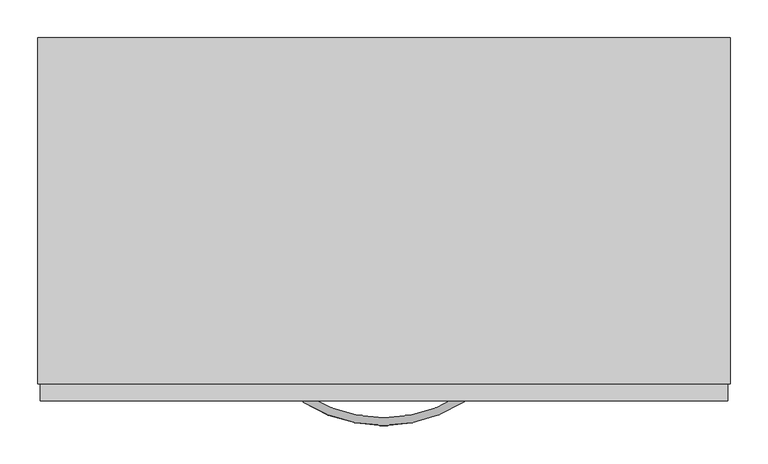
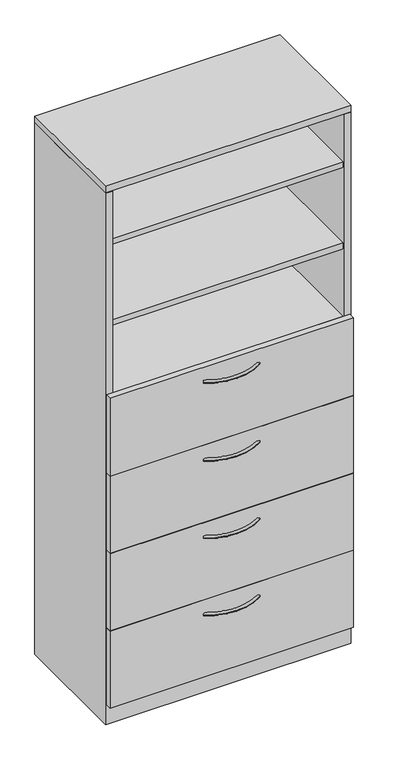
"""IFC4 building model written with IfcOpenShell, lengths in millimetres: furniture geometry, Steelcase - Universal Storage - Cabinet - Combination - Proud Steel : 83 1/2H - Open Cabinet/4 Drawers - 18 7/8D x 36W."""

from ifc_helpers import new_model, si_unit, point, frame, origin, place, context, project, spatial, polyline, circle_curve, ellipse_curve, trimmed, outline, extrude, faceted_brep, source, transform, mapped, element, save
from ifc_brep_helpers import plane_surface, revolved_surface, advanced_brep


def furniture_d5eebd49(model_context):
    return source(origin(), model_context, "Body", "SolidModel", [
        extrude(outline(polyline([(889.0000242, -25.4000008), (889.0000242, -454.0250121), (25.4000008, -454.0250121), (25.4000008, -25.4000008), (889.0000242, -25.4000008)])), frame((0.0, 0.0, 1273.1750484), z_axis=(0.0, 0.0, 1.0), x_axis=(1.0, 0.0, 0.0)), (0.0, 0.0, 1.0), 22.2249516),
        extrude(outline(polyline([(889.0000242, -25.4000008), (889.0000242, -454.0250121), (25.4000008, -454.0250121), (25.4000008, -25.4000008), (889.0000242, -25.4000008)])), frame((0.0, 0.0, 1562.7350484), z_axis=(0.0, 0.0, 1.0), x_axis=(1.0, 0.0, 0.0)), (0.0, 0.0, 1.0), 22.2249516),
        extrude(outline(polyline([(889.0000242, -25.4000008), (889.0000242, -454.0250121), (25.4000008, -454.0250121), (25.4000008, -25.4000008), (889.0000242, -25.4000008)])), frame((0.0, 0.0, 1882.7750484), z_axis=(0.0, 0.0, 1.0), x_axis=(1.0, 0.0, 0.0)), (0.0, 0.0, 1.0), 22.2249516),
        advanced_brep(
        [(350.6245932, -481.5705994, 1240.6312742), (356.0977519, -473.0108019, 1240.6312742), (562.9315136, -481.1337636, 1240.6312742), (557.4231767, -472.5965612, 1240.6312742)],
        [
            (0, 1, circle_curve(frame((353.3611726, -477.2907007, 1240.6312742), z_axis=(-0.8424997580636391, 0.5386967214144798, 0.0), x_axis=(0.5386967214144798, 0.8424997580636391, 0.0)), 5.08)),
            (1, 0, circle_curve(frame((353.3611726, -477.2907007, 1240.6312742), z_axis=(-0.8424997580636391, 0.5386967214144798, 0.0), x_axis=(0.5386967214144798, 0.8424997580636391, 0.0)), 5.08)),
            (2, 3, circle_curve(frame((560.1773452, -476.8651624, 1240.6312742), z_axis=(0.8402758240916, 0.5421591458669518, 0.0), x_axis=(-0.5421591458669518, 0.8402758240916, 0.0)), 5.08)),
            (3, 2, circle_curve(frame((560.1773452, -476.8651624, 1240.6312742), z_axis=(0.8402758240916, 0.5421591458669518, 0.0), x_axis=(-0.5421591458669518, 0.8402758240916, 0.0)), 5.08)),
            (3, 1, circle_curve(frame((456.4380004, -316.0827352, 1240.6312742), z_axis=(0.0, 0.0, -1.0), x_axis=(-0.5386967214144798, -0.8424997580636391, 0.0)), 186.2648211)),
            (0, 2, circle_curve(frame((456.4380004, -316.0827352, 1240.6312742), z_axis=(0.0, 0.0, 1.0), x_axis=(-0.5386967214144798, -0.8424997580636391, 0.0)), 196.4248211)),
        ],
        [
            plane_surface(frame((353.7794521, -476.6365286, 1241.4250242), z_axis=(-0.8424997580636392, 0.5386967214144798, 0.0), x_axis=(0.0, 0.0, 1.0))),
            plane_surface(frame((559.7563772, -476.2127171, 1241.4250242), z_axis=(0.8402758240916, 0.5421591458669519, 0.0), x_axis=(0.0, 0.0, 1.0))),
            revolved_surface(trimmed(ellipse_curve(frame((353.3611726, -477.2907007, 1240.6312742), z_axis=(-0.8424997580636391, 0.5386967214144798, 0.0), x_axis=(0.5386967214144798, 0.8424997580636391, 0.0)), 5.08, 5.08), [point((350.6245932, -481.5705994, 1240.6312742))], [point((356.0977519, -473.0108019, 1240.6312742))], True, "CARTESIAN"), (456.4380004, -316.0827352, 1241.4250242), (0.0, 0.0, 1.0)),
            revolved_surface(trimmed(ellipse_curve(frame((353.3611726, -477.2907007, 1240.6312742), z_axis=(-0.8424997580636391, 0.5386967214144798, 0.0), x_axis=(0.5386967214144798, 0.8424997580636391, 0.0)), 5.08, 5.08), [point((356.0977519, -473.0108019, 1240.6312742))], [point((350.6245932, -481.5705994, 1240.6312742))], True, "CARTESIAN"), (456.4380004, -316.0827352, 1241.4250242), (0.0, 0.0, 1.0)),
        ],
        [
            (0, [[1, 2]]),
            (1, [[3, 4]]),
            (2, [[5, -1, 6, -4]]),
            (3, [[-6, -2, -5, -3]]),
        ],
    ),
        advanced_brep(
        [(350.6245932, -481.5705994, 323.56425), (356.0977519, -473.0108019, 323.56425), (562.9315136, -481.1337636, 323.56425), (557.4231767, -472.5965612, 323.56425)],
        [
            (0, 1, circle_curve(frame((353.3611726, -477.2907007, 323.56425), z_axis=(-0.8424997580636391, 0.5386967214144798, 0.0), x_axis=(0.5386967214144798, 0.8424997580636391, 0.0)), 5.08)),
            (1, 0, circle_curve(frame((353.3611726, -477.2907007, 323.56425), z_axis=(-0.8424997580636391, 0.5386967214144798, 0.0), x_axis=(0.5386967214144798, 0.8424997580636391, 0.0)), 5.08)),
            (2, 3, circle_curve(frame((560.1773452, -476.8651624, 323.56425), z_axis=(0.8402758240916, 0.5421591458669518, 0.0), x_axis=(-0.5421591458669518, 0.8402758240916, 0.0)), 5.08)),
            (3, 2, circle_curve(frame((560.1773452, -476.8651624, 323.56425), z_axis=(0.8402758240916, 0.5421591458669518, 0.0), x_axis=(-0.5421591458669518, 0.8402758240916, 0.0)), 5.08)),
            (3, 1, circle_curve(frame((456.4380004, -316.0827352, 323.56425), z_axis=(0.0, 0.0, -1.0), x_axis=(-0.5386967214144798, -0.8424997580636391, 0.0)), 186.2648211)),
            (0, 2, circle_curve(frame((456.4380004, -316.0827352, 323.56425), z_axis=(0.0, 0.0, 1.0), x_axis=(-0.5386967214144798, -0.8424997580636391, 0.0)), 196.4248211)),
        ],
        [
            plane_surface(frame((353.7794521, -476.6365286, 324.358), z_axis=(-0.8424997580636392, 0.5386967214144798, 0.0), x_axis=(0.0, 0.0, 1.0))),
            plane_surface(frame((559.7563772, -476.2127171, 324.358), z_axis=(0.8402758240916, 0.5421591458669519, 0.0), x_axis=(0.0, 0.0, 1.0))),
            revolved_surface(trimmed(ellipse_curve(frame((353.3611726, -477.2907007, 323.56425), z_axis=(-0.8424997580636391, 0.5386967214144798, 0.0), x_axis=(0.5386967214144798, 0.8424997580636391, 0.0)), 5.08, 5.08), [point((350.6245932, -481.5705994, 323.56425))], [point((356.0977519, -473.0108019, 323.56425))], True, "CARTESIAN"), (456.4380004, -316.0827352, 324.358), (0.0, 0.0, 1.0)),
            revolved_surface(trimmed(ellipse_curve(frame((353.3611726, -477.2907007, 323.56425), z_axis=(-0.8424997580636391, 0.5386967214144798, 0.0), x_axis=(0.5386967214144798, 0.8424997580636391, 0.0)), 5.08, 5.08), [point((356.0977519, -473.0108019, 323.56425))], [point((350.6245932, -481.5705994, 323.56425))], True, "CARTESIAN"), (456.4380004, -316.0827352, 324.358), (0.0, 0.0, 1.0)),
        ],
        [
            (0, [[1, 2]]),
            (1, [[3, 4]]),
            (2, [[5, -1, 6, -4]]),
            (3, [[-6, -2, -5, -3]]),
        ],
    ),
        advanced_brep(
        [(350.6245932, -481.5705994, 627.85625), (356.0977519, -473.0108019, 627.85625), (562.9315136, -481.1337636, 627.85625), (557.4231767, -472.5965612, 627.85625)],
        [
            (0, 1, circle_curve(frame((353.3611726, -477.2907007, 627.85625), z_axis=(-0.8424997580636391, 0.5386967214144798, 0.0), x_axis=(0.5386967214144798, 0.8424997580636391, 0.0)), 5.08)),
            (1, 0, circle_curve(frame((353.3611726, -477.2907007, 627.85625), z_axis=(-0.8424997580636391, 0.5386967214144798, 0.0), x_axis=(0.5386967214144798, 0.8424997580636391, 0.0)), 5.08)),
            (2, 3, circle_curve(frame((560.1773452, -476.8651624, 627.85625), z_axis=(0.8402758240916, 0.5421591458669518, 0.0), x_axis=(-0.5421591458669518, 0.8402758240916, 0.0)), 5.08)),
            (3, 2, circle_curve(frame((560.1773452, -476.8651624, 627.85625), z_axis=(0.8402758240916, 0.5421591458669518, 0.0), x_axis=(-0.5421591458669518, 0.8402758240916, 0.0)), 5.08)),
            (3, 1, circle_curve(frame((456.4380004, -316.0827352, 627.85625), z_axis=(0.0, 0.0, -1.0), x_axis=(-0.5386967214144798, -0.8424997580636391, 0.0)), 186.2648211)),
            (0, 2, circle_curve(frame((456.4380004, -316.0827352, 627.85625), z_axis=(0.0, 0.0, 1.0), x_axis=(-0.5386967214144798, -0.8424997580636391, 0.0)), 196.4248211)),
        ],
        [
            plane_surface(frame((353.7794521, -476.6365286, 628.65), z_axis=(-0.8424997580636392, 0.5386967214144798, 0.0), x_axis=(0.0, 0.0, 1.0))),
            plane_surface(frame((559.7563772, -476.2127171, 628.65), z_axis=(0.8402758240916, 0.5421591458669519, 0.0), x_axis=(0.0, 0.0, 1.0))),
            revolved_surface(trimmed(ellipse_curve(frame((353.3611726, -477.2907007, 627.85625), z_axis=(-0.8424997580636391, 0.5386967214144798, 0.0), x_axis=(0.5386967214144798, 0.8424997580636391, 0.0)), 5.08, 5.08), [point((350.6245932, -481.5705994, 627.85625))], [point((356.0977519, -473.0108019, 627.85625))], True, "CARTESIAN"), (456.4380004, -316.0827352, 628.65), (0.0, 0.0, 1.0)),
            revolved_surface(trimmed(ellipse_curve(frame((353.3611726, -477.2907007, 627.85625), z_axis=(-0.8424997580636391, 0.5386967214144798, 0.0), x_axis=(0.5386967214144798, 0.8424997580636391, 0.0)), 5.08, 5.08), [point((356.0977519, -473.0108019, 627.85625))], [point((350.6245932, -481.5705994, 627.85625))], True, "CARTESIAN"), (456.4380004, -316.0827352, 628.65), (0.0, 0.0, 1.0)),
        ],
        [
            (0, [[1, 2]]),
            (1, [[3, 4]]),
            (2, [[5, -1, 6, -4]]),
            (3, [[-6, -2, -5, -3]]),
        ],
    ),
        extrude(outline(polyline([(911.2225413, -479.552), (3.1725353, -479.552), (3.1725353, -457.3261219), (911.2225413, -457.3261219), (911.2225413, -479.552)])), frame((0.0, 0.0, 992.1240349), z_axis=(0.0, 0.0, 1.0), x_axis=(1.0, 0.0, 0.0)), (0.0, 0.0, 1.0), 306.4509893),
        extrude(outline(polyline([(911.2225413, -479.552), (3.1725353, -479.552), (3.1725353, -457.3261219), (911.2225413, -457.3261219), (911.2225413, -479.552)])), frame((0.0, 0.0, 687.3240349), z_axis=(0.0, 0.0, 1.0), x_axis=(1.0, 0.0, 0.0)), (0.0, 0.0, 1.0), 303.2759651),
        advanced_brep(
        [(350.6245932, -481.5705994, 932.65625), (356.0977519, -473.0108019, 932.65625), (562.9315136, -481.1337636, 932.65625), (557.4231767, -472.5965612, 932.65625)],
        [
            (0, 1, circle_curve(frame((353.3611726, -477.2907007, 932.65625), z_axis=(-0.8424997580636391, 0.5386967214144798, 0.0), x_axis=(0.5386967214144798, 0.8424997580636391, 0.0)), 5.08)),
            (1, 0, circle_curve(frame((353.3611726, -477.2907007, 932.65625), z_axis=(-0.8424997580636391, 0.5386967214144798, 0.0), x_axis=(0.5386967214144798, 0.8424997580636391, 0.0)), 5.08)),
            (2, 3, circle_curve(frame((560.1773452, -476.8651624, 932.65625), z_axis=(0.8402758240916, 0.5421591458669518, 0.0), x_axis=(-0.5421591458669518, 0.8402758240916, 0.0)), 5.08)),
            (3, 2, circle_curve(frame((560.1773452, -476.8651624, 932.65625), z_axis=(0.8402758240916, 0.5421591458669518, 0.0), x_axis=(-0.5421591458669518, 0.8402758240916, 0.0)), 5.08)),
            (3, 1, circle_curve(frame((456.4380004, -316.0827352, 932.65625), z_axis=(0.0, 0.0, -1.0), x_axis=(-0.5386967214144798, -0.8424997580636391, 0.0)), 186.2648211)),
            (0, 2, circle_curve(frame((456.4380004, -316.0827352, 932.65625), z_axis=(0.0, 0.0, 1.0), x_axis=(-0.5386967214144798, -0.8424997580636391, 0.0)), 196.4248211)),
        ],
        [
            plane_surface(frame((353.7794521, -476.6365286, 933.45), z_axis=(-0.8424997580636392, 0.5386967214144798, 0.0), x_axis=(0.0, 0.0, 1.0))),
            plane_surface(frame((559.7563772, -476.2127171, 933.45), z_axis=(0.8402758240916, 0.5421591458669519, 0.0), x_axis=(0.0, 0.0, 1.0))),
            revolved_surface(trimmed(ellipse_curve(frame((353.3611726, -477.2907007, 932.65625), z_axis=(-0.8424997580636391, 0.5386967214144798, 0.0), x_axis=(0.5386967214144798, 0.8424997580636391, 0.0)), 5.08, 5.08), [point((350.6245932, -481.5705994, 932.65625))], [point((356.0977519, -473.0108019, 932.65625))], True, "CARTESIAN"), (456.4380004, -316.0827352, 933.45), (0.0, 0.0, 1.0)),
            revolved_surface(trimmed(ellipse_curve(frame((353.3611726, -477.2907007, 932.65625), z_axis=(-0.8424997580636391, 0.5386967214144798, 0.0), x_axis=(0.5386967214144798, 0.8424997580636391, 0.0)), 5.08, 5.08), [point((356.0977519, -473.0108019, 932.65625))], [point((350.6245932, -481.5705994, 932.65625))], True, "CARTESIAN"), (456.4380004, -316.0827352, 933.45), (0.0, 0.0, 1.0)),
        ],
        [
            (0, [[1, 2]]),
            (1, [[3, 4]]),
            (2, [[5, -1, 6, -4]]),
            (3, [[-6, -2, -5, -3]]),
        ],
    ),
        faceted_brep([(25.4000008, -457.3261219, 76.2), (889.0000242, -457.3261219, 76.2), (889.0000242, -25.4000008, 76.2), (25.4000008, -25.4000008, 76.2), (914.4, 0.0, 0.0), (914.4, -457.3261219, 0.0), (0.0, -457.3261219, 0.0), (0.0, 0.0, 0.0), (0.0, 0.0, 2093.976), (914.4, 0.0, 2093.976), (0.0, -457.3261219, 2093.976), (914.4, -457.3261219, 2093.976), (889.0000242, -457.3261219, 2093.976), (25.4000008, -457.3261219, 2093.976), (889.0000242, -25.4000008, 2093.976), (25.4000008, -25.4000008, 2093.976)], [[[0, 1, 2, 3]], [[4, 5, 6, 7]], [[4, 7, 8, 9]], [[8, 7, 6, 10]], [[10, 6, 5, 11, 12, 1, 0, 13]], [[11, 5, 4, 9]], [[14, 12, 11, 9, 8, 10, 13, 15]], [[12, 14, 2, 1]], [[15, 13, 0, 3]], [[14, 15, 3, 2]]]),
        extrude(outline(polyline([(911.2225413, -479.552), (3.1725353, -479.552), (3.1725353, -457.3261219), (911.2225413, -457.3261219), (911.2225413, -479.552)])), frame((0.0, 0.0, 77.724), z_axis=(0.0, 0.0, 1.0), x_axis=(1.0, 0.0, 0.0)), (0.0, 0.0, 1.0), 303.276),
        extrude(outline(polyline([(911.2225413, -479.552), (3.1725353, -479.552), (3.1725353, -457.3261219), (911.2225413, -457.3261219), (911.2225413, -479.552)])), frame((0.0, 0.0, 382.524), z_axis=(0.0, 0.0, 1.0), x_axis=(1.0, 0.0, 0.0)), (0.0, 0.0, 1.0), 303.276),
        extrude(outline(polyline([(914.4, 0.0), (914.4, -457.3261219), (0.0, -457.3261219), (0.0, 0.0), (914.4, 0.0)])), frame((0.0, 0.0, 2095.4999516), z_axis=(0.0, 0.0, 1.0), x_axis=(1.0, 0.0, 0.0)), (0.0, 0.0, 1.0), 25.4000484),
    ])


if __name__ == "__main__":
    model = new_model("IFC4")
    model_context = context("Model", 3, world=origin())
    ifc_project = project(units=[si_unit("LENGTHUNIT", "METRE", prefix="MILLI")], contexts=[model_context])
    site = spatial("IfcSite", under=ifc_project)
    building = spatial("IfcBuilding", under=site)
    placement = place(None, origin())
    furniture_shape = furniture_d5eebd49(model_context)
    element("IfcFurniture", 1, ObjectType="Steelcase - Universal Storage - Cabinet - Combination - Proud Steel : 83 1/2H - Open Cabinet/4 Drawers - 18 7/8D x 36W", at=placement, inside=building, context=model_context, shape_type="MappedRepresentation", body=[
        mapped(furniture_shape, transform((0.0, 0.0, 0.0), x_axis=(1.0, 0.0, 0.0), y_axis=(0.0, 1.0, 0.0), z_axis=(0.0, 0.0, 1.0))),
    ])
    save(model, "model.ifc")
